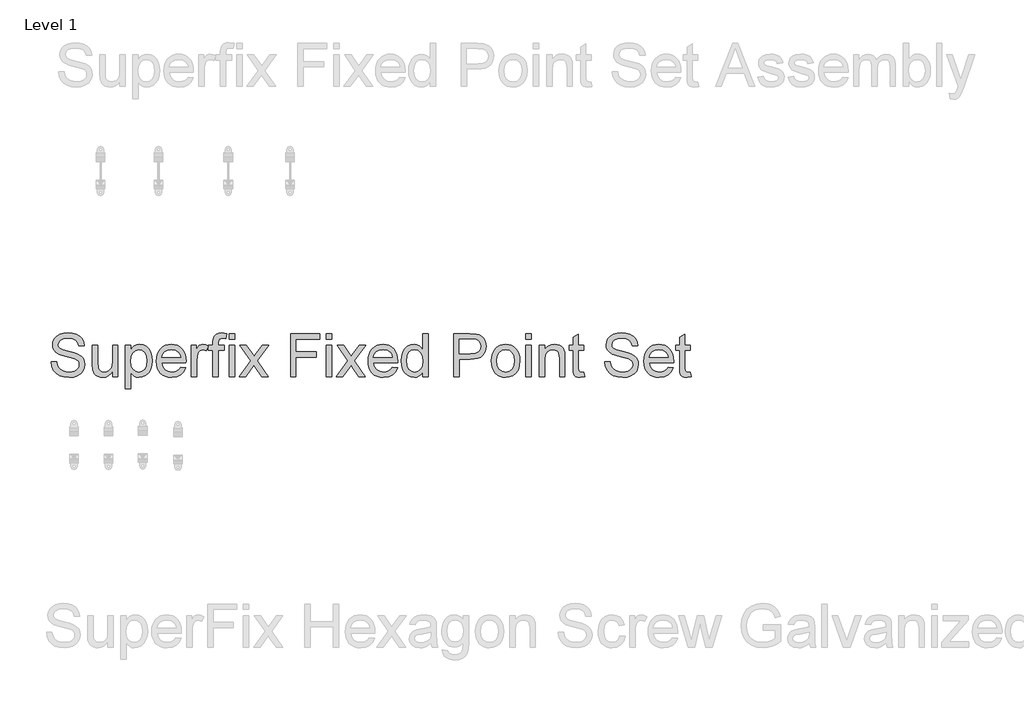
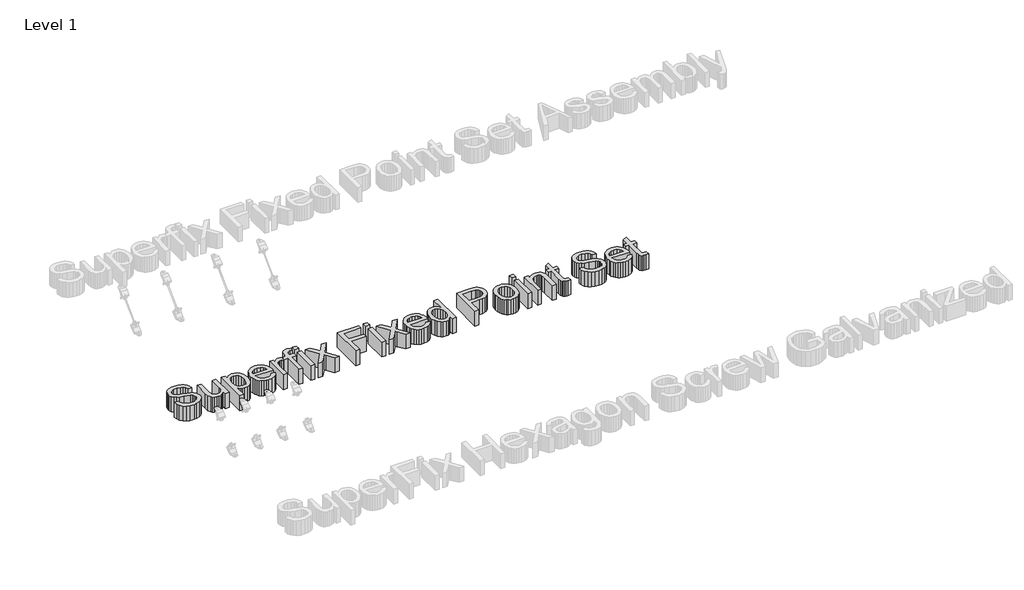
# One storey, part 21 of 32: 1 proxy.
"""IFC4 building model written with IfcOpenShell, lengths in millimetres."""

from ifc_helpers import new_model, si_unit, origin, origin_with_axes, place, context, project, spatial, polyline, outline, extrude, element, save

model = new_model("IFC4")

# Units and contexts
model_context = context("Model", 3, world=origin())
ifc_project = project(units=[si_unit("LENGTHUNIT", "METRE", prefix="MILLI")], contexts=[model_context])

# Site, building, storey
site = spatial("IfcSite", under=ifc_project)
building = spatial("IfcBuilding", under=site)
storey = spatial("IfcBuildingStorey", under=building, Name="Level 1", Elevation=0.0)

# Proxy
placement = place(None, origin())
element("IfcBuildingElementProxy", 1, Name="300mm Arial 2", ObjectType="300mm Arial 2", at=placement, inside=storey, context=model_context, shape_type="SweptSolid", body=[
    extrude(outline(polyline([(-40544.5484038, 16582.5420508), (-40506.8772875, 16582.5420508), (-40502.5546741, 16561.6371564), (-40494.7371817, 16544.8341463), (-40482.5418935, 16531.4984239), (-40465.0858928, 16520.995393), (-40443.7487371, 16514.180379), (-40419.9099838, 16511.9087077), (-40398.922316, 16513.628556), (-40380.5466104, 16518.788101), (-40365.6565866, 16526.9550813), (-40355.1259645, 16537.6972356), (-40348.8627735, 16550.0304795), (-40346.7750432, 16562.9707286), (-40348.3385417, 16575.579884), (-40353.0290371, 16586.4783881), (-40362.5571808, 16595.7766056), (-40378.633624, 16603.5849009), (-40433.4848295, 16617.9690869), (-40469.4912797, 16627.4880335), (-40492.5298897, 16636.5471277), (-40511.2826744, 16649.2206624), (-40524.5724115, 16664.5797357), (-40532.4910714, 16682.2932538), (-40535.1306247, 16702.0301228), (-40531.865672, 16724.0938455), (-40522.0708139, 16744.6676461), (-40506.0035678, 16762.1052526), (-40483.921451, 16774.7603933), (-40457.4155532, 16782.458324), (-40428.0769641, 16785.0243009), (-40396.2919597, 16782.3387624), (-40368.4800809, 16774.2821467), (-40345.634609, 16761.0200007), (-40328.7488254, 16742.7178715), (-40318.0618535, 16720.5161931), (-40313.8128164, 16695.5553997), (-40351.4839327, 16695.5553997), (-40358.4001142, 16718.0329896), (-40372.8210885, 16734.2565856), (-40395.3538607, 16744.0790349), (-40426.6054361, 16747.3531846), (-40458.5927756, 16744.1158231), (-40480.5369366, 16734.4037384), (-40493.2288655, 16720.1115229), (-40497.4595084, 16703.1337688), (-40494.4612702, 16688.6576123), (-40485.4665554, 16677.0141471), (-40464.2029761, 16666.6030867), (-40423.9566858, 16655.971297), (-40382.4228085, 16645.8729362), (-40357.2964683, 16637.0621625), (-40335.8213568, 16623.3953463), (-40320.8393625, 16606.5279569), (-40312.0377858, 16586.643935), (-40309.1039269, 16563.9272218), (-40312.4792442, 16540.7046709), (-40322.6051961, 16518.8616774), (-40339.0679154, 16500.0629075), (-40361.4535348, 16485.973027), (-40388.3732998, 16477.1714503), (-40418.4384559, 16474.2375914), (-40455.346217, 16477.4013766), (-40485.7240728, 16486.892732), (-40509.921511, 16502.748446), (-40528.2880196, 16525.0053067), (-40540.0786376, 16552.1182098), (-40544.5484038, 16582.5420508)])), origin_with_axes(), (0.0, 0.0, 1.0), 150.0),
    extrude(outline(polyline([(-40116.0394558, 16478.9464809), (-40116.0394558, 16516.9854792), (-40129.6694837, 16498.2832783), (-40145.5435918, 16484.9245634), (-40163.6617801, 16476.9093344), (-40184.0240485, 16474.2375914), (-40202.372163, 16476.1137896), (-40219.4510847, 16481.7423841), (-40233.7800884, 16490.20367), (-40243.8784491, 16500.5779423), (-40255.09885, 16528.3162447), (-40257.306142, 16563.3386106), (-40257.306142, 16700.2642892), (-40219.6350257, 16700.2642892), (-40219.6350257, 16581.0705228), (-40217.3541573, 16542.6636425), (-40211.8635185, 16529.852152), (-40202.4549365, 16520.1124762), (-40189.7538106, 16513.9596498), (-40174.3855403, 16511.9087077), (-40158.1343531, 16514.0056351), (-40142.9316297, 16520.2964172), (-40130.3960507, 16530.2016399), (-40122.1462969, 16543.1418891), (-40117.5661661, 16560.8646042), (-40116.0394558, 16585.1172247), (-40116.0394558, 16700.2642892), (-40078.3683395, 16700.2642892), (-40078.3683395, 16478.9464809), (-40116.0394558, 16478.9464809)])), origin_with_axes(), (0.0, 0.0, 1.0), 150.0),
    extrude(outline(polyline([(-40026.5705546, 16394.1864692), (-40026.5705546, 16700.2642892), (-39988.8994383, 16700.2642892), (-39988.8994383, 16663.3289369), (-39976.6121796, 16681.5482927), (-39962.853393, 16694.5621183), (-39946.813738, 16702.3704137), (-39927.6838743, 16704.9731788), (-39902.2080461, 16701.331147), (-39879.9327913, 16690.4050518), (-39861.796209, 16672.8570806), (-39848.7363981, 16649.3494211), (-39840.8453293, 16621.5927246), (-39838.2149731, 16591.2976423), (-39841.1856202, 16559.0803765), (-39850.0975615, 16530.2660193), (-39864.6656885, 16506.3169014), (-39884.6048927, 16488.6953538), (-39907.8274436, 16477.852032), (-39932.245611, 16474.2375914), (-39949.563656, 16476.6564155), (-39965.0238968, 16483.9128879), (-39978.2584516, 16494.8665743), (-39988.8994383, 16508.3770406), (-39988.8994383, 16394.1864692), (-40026.5705546, 16394.1864692)]), holes=[polyline([(-39988.8994383, 16587.8395515), (-39984.8251452, 16554.0679844), (-39972.6022659, 16530.4499603), (-39954.5668511, 16516.5440208), (-39933.0549514, 16511.9087077), (-39911.1935639, 16516.7095677), (-39892.6982965, 16531.1121479), (-39880.0891412, 16555.5946946), (-39875.8860894, 16590.6354547), (-39879.9879736, 16624.2230808), (-39892.2936264, 16648.1721987), (-39910.30145, 16662.5195965), (-39931.509847, 16667.3020625), (-39952.8010175, 16662.2160939), (-39971.4986199, 16646.9581881), (-39984.5492337, 16622.0065918), (-39988.8994383, 16587.8395515)])]), origin_with_axes(), (0.0, 0.0, 1.0), 150.0),
    extrude(outline(polyline([(-39640.8830709, 16544.8709345), (-39603.9477185, 16540.1620449), (-39617.2558497, 16512.331772), (-39638.4918379, 16491.5280452), (-39667.1774365, 16478.5602048), (-39702.8343988, 16474.2375914), (-39726.2087011, 16476.1022933), (-39747.0354206, 16481.6963989), (-39765.3145572, 16491.0199082), (-39781.046111, 16504.0728212), (-39793.6966531, 16520.4918545), (-39802.7327546, 16539.9137246), (-39808.1544155, 16562.3384315), (-39809.9616358, 16587.7659751), (-39808.1360214, 16614.0557422), (-39802.6591782, 16637.2277094), (-39793.5311062, 16657.2818766), (-39780.7518054, 16674.218244), (-39765.0616383, 16687.673528), (-39747.2009675, 16697.2844451), (-39727.1697928, 16703.0509953), (-39704.9681144, 16704.9731788), (-39683.4815066, 16703.0555939), (-39664.0504395, 16697.3028392), (-39646.674913, 16687.7149147), (-39631.3549272, 16674.2918204), (-39618.8492386, 16657.3922412), (-39609.9166039, 16637.3748622), (-39604.5570231, 16614.2396832), (-39602.7704962, 16587.9867043), (-39602.9912253, 16577.8331612), (-39772.2905195, 16577.8331612), (-39765.7698112, 16549.6350063), (-39750.62227, 16528.9048559), (-39728.7608824, 16516.1577447), (-39702.0986348, 16511.9087077), (-39682.0490661, 16513.8768764), (-39665.1632825, 16519.7813824), (-39651.4412841, 16529.9901078), (-39640.8830709, 16544.8709345)]), holes=[polyline([(-39772.2905195, 16615.5042775), (-39640.4416125, 16615.5042775), (-39645.5367781, 16635.4066935), (-39655.5247743, 16649.6437267), (-39677.4873294, 16662.8874785), (-39705.1152672, 16667.3020625), (-39730.5083219, 16663.7795924), (-39751.5051868, 16653.2121821), (-39766.100905, 16636.7402657), (-39772.2905195, 16615.5042775)])]), origin_with_axes(), (0.0, 0.0, 1.0), 150.0),
    extrude(outline(polyline([(-39565.0993798, 16478.9464809), (-39565.0993798, 16700.2642892), (-39532.1371531, 16700.2642892), (-39532.1371531, 16667.5227917), (-39519.960259, 16686.5055026), (-39508.7398582, 16697.6891153), (-39497.4826691, 16703.1521629), (-39485.1954105, 16704.9731788), (-39466.4334287, 16702.066911), (-39447.3771414, 16693.3481077), (-39459.9587056, 16659.5765406), (-39473.2024574, 16665.370682), (-39486.4462093, 16667.3020625), (-39497.6942013, 16665.4442584), (-39507.7465768, 16659.8708462), (-39515.8675718, 16651.0048901), (-39521.3214224, 16639.2694544), (-39525.9015533, 16618.2266043), (-39527.4282635, 16595.2707678), (-39527.4282635, 16478.9464809), (-39565.0993798, 16478.9464809)])), origin_with_axes(), (0.0, 0.0, 1.0), 150.0),
    extrude(outline(polyline([(-39414.4149146, 16478.9464809), (-39414.4149146, 16662.5931729), (-39447.3771414, 16662.5931729), (-39447.3771414, 16700.2642892), (-39414.4149146, 16700.2642892), (-39414.4149146, 16722.5579381), (-39410.4417891, 16753.9750605), (-39402.86342, 16766.5014425), (-39391.1647725, 16776.4158622), (-39374.7940237, 16782.8721913), (-39353.1993506, 16785.0243009), (-39318.8391723, 16780.9040226), (-39324.3574022, 16745.587351), (-39346.0624399, 16747.3531846), (-39360.3822466, 16745.7896861), (-39369.7908286, 16741.0991907), (-39375.0055559, 16732.1412641), (-39376.7437983, 16717.7754722), (-39376.7437983, 16700.2642892), (-39334.3637925, 16700.2642892), (-39334.3637925, 16662.5931729), (-39376.7437983, 16662.5931729), (-39376.7437983, 16478.9464809), (-39414.4149146, 16478.9464809)])), origin_with_axes(), (0.0, 0.0, 1.0), 150.0),
    extrude(outline(polyline([(-39301.4015657, 16478.9464809), (-39301.4015657, 16700.2642892), (-39263.7304494, 16700.2642892), (-39263.7304494, 16478.9464809), (-39301.4015657, 16478.9464809)])), origin_with_axes(), (0.0, 0.0, 1.0), 150.0),
    extrude(outline(polyline([(-39301.4015657, 16742.6442951), (-39301.4015657, 16780.3154114), (-39263.7304494, 16780.3154114), (-39263.7304494, 16742.6442951), (-39301.4015657, 16742.6442951)])), origin_with_axes(), (0.0, 0.0, 1.0), 150.0),
    extrude(outline(polyline([(-39230.7682226, 16478.9464809), (-39150.2756421, 16590.1939963), (-39226.0593331, 16700.2642892), (-39180.7362713, 16700.2642892), (-39144.168801, 16647.2892819), (-39127.0990764, 16622.2733063), (-39112.3102202, 16642.7275452), (-39070.6659783, 16700.2642892), (-39025.3429165, 16700.2642892), (-39104.9525803, 16590.1939963), (-39028.2859725, 16478.9464809), (-39073.6090343, 16478.9464809), (-39119.7414365, 16545.8274277), (-39128.2027224, 16558.0411099), (-39185.4451608, 16478.9464809), (-39230.7682226, 16478.9464809)])), origin_with_axes(), (0.0, 0.0, 1.0), 150.0),
    extrude(outline(polyline([(-38872.8926177, 16478.9464809), (-38872.8926177, 16780.3154114), (-38670.4103676, 16780.3154114), (-38670.4103676, 16742.6442951), (-38835.2215014, 16742.6442951), (-38835.2215014, 16653.1753939), (-38693.9548153, 16653.1753939), (-38693.9548153, 16615.5042775), (-38835.2215014, 16615.5042775), (-38835.2215014, 16478.9464809), (-38872.8926177, 16478.9464809)])), origin_with_axes(), (0.0, 0.0, 1.0), 150.0),
    extrude(outline(polyline([(-38623.3214722, 16742.6442951), (-38623.3214722, 16780.3154114), (-38585.6503559, 16780.3154114), (-38585.6503559, 16742.6442951), (-38623.3214722, 16742.6442951)])), origin_with_axes(), (0.0, 0.0, 1.0), 150.0),
    extrude(outline(polyline([(-38623.3214722, 16478.9464809), (-38623.3214722, 16700.2642892), (-38585.6503559, 16700.2642892), (-38585.6503559, 16478.9464809), (-38623.3214722, 16478.9464809)])), origin_with_axes(), (0.0, 0.0, 1.0), 150.0),
    extrude(outline(polyline([(-38552.6881291, 16478.9464809), (-38472.1955486, 16590.1939963), (-38547.9792396, 16700.2642892), (-38502.6561778, 16700.2642892), (-38466.0887075, 16647.2892819), (-38449.0189829, 16622.2733063), (-38434.2301267, 16642.7275452), (-38392.5858848, 16700.2642892), (-38347.262823, 16700.2642892), (-38426.8724868, 16590.1939963), (-38350.205879, 16478.9464809), (-38395.5289408, 16478.9464809), (-38441.661343, 16545.8274277), (-38450.1226289, 16558.0411099), (-38507.3650673, 16478.9464809), (-38552.6881291, 16478.9464809)])), origin_with_axes(), (0.0, 0.0, 1.0), 150.0),
    extrude(outline(polyline([(-38162.2917558, 16544.8709345), (-38125.3564035, 16540.1620449), (-38138.6645347, 16512.331772), (-38159.9005229, 16491.5280452), (-38188.5861214, 16478.5602048), (-38224.2430838, 16474.2375914), (-38247.6173861, 16476.1022933), (-38268.4441055, 16481.6963989), (-38286.7232422, 16491.0199082), (-38302.454796, 16504.0728212), (-38315.1053381, 16520.4918545), (-38324.1414396, 16539.9137246), (-38329.5631005, 16562.3384315), (-38331.3703208, 16587.7659751), (-38329.5447064, 16614.0557422), (-38324.0678632, 16637.2277094), (-38314.9397912, 16657.2818766), (-38302.1604904, 16674.218244), (-38286.4703233, 16687.673528), (-38268.6096524, 16697.2844451), (-38248.5784778, 16703.0509953), (-38226.3767994, 16704.9731788), (-38204.8901916, 16703.0555939), (-38185.4591245, 16697.3028392), (-38168.083598, 16687.7149147), (-38152.7636122, 16674.2918204), (-38140.2579236, 16657.3922412), (-38131.3252889, 16637.3748622), (-38125.9657081, 16614.2396832), (-38124.1791811, 16587.9867043), (-38124.3999103, 16577.8331612), (-38293.6992045, 16577.8331612), (-38287.1784961, 16549.6350063), (-38272.030955, 16528.9048559), (-38250.1695674, 16516.1577447), (-38223.5073198, 16511.9087077), (-38203.4577511, 16513.8768764), (-38186.5719675, 16519.7813824), (-38172.8499691, 16529.9901078), (-38162.2917558, 16544.8709345)]), holes=[polyline([(-38293.6992045, 16615.5042775), (-38161.8502974, 16615.5042775), (-38166.9454631, 16635.4066935), (-38176.9334592, 16649.6437267), (-38198.8960144, 16662.8874785), (-38226.5239522, 16667.3020625), (-38251.9170069, 16663.7795924), (-38272.9138718, 16653.2121821), (-38287.5095899, 16636.7402657), (-38293.6992045, 16615.5042775)])]), origin_with_axes(), (0.0, 0.0, 1.0), 150.0),
    extrude(outline(polyline([(-37949.9502682, 16478.9464809), (-37949.9502682, 16514.4838817), (-37961.2212528, 16496.8761297), (-37974.8742734, 16484.299164), (-37990.9093299, 16476.7529845), (-38009.3264222, 16474.2375914), (-38033.6802103, 16477.8796232), (-38055.9738592, 16488.8057184), (-38074.8462056, 16506.252522), (-38088.936086, 16529.4566789), (-38097.7100716, 16557.4800899), (-38100.6347334, 16589.3846559), (-38097.9399978, 16620.8937488), (-38089.855791, 16649.3494211), (-38076.39131, 16673.1329921), (-38057.5557518, 16690.625781), (-38034.7746593, 16701.3863293), (-38009.473575, 16704.9731788), (-37991.0426871, 16702.4072019), (-37974.7455147, 16694.7092711), (-37960.9315458, 16682.9094561), (-37949.9502682, 16668.0378265), (-37949.9502682, 16780.3154114), (-37912.2791519, 16780.3154114), (-37912.2791519, 16478.9464809), (-37949.9502682, 16478.9464809)]), holes=[polyline([(-38062.9636171, 16589.5318087), (-38058.7145801, 16555.4567389), (-38045.967469, 16531.2225125), (-38027.4446105, 16516.7371589), (-38005.8683315, 16511.9087077), (-37984.3012495, 16516.5164297), (-37966.2474406, 16530.3395957), (-37954.0245613, 16553.635723), (-37949.9502682, 16586.6623291), (-37954.0981377, 16622.769947), (-37966.5417462, 16647.8043167), (-37985.0554076, 16662.427626), (-38007.4134359, 16667.3020625), (-38029.2104441, 16662.6207641), (-38047.0711149, 16648.5768689), (-38058.9904916, 16624.4530071), (-38062.9636171, 16589.5318087)])]), origin_with_axes(), (0.0, 0.0, 1.0), 150.0),
    extrude(outline(polyline([(-37733.3413495, 16478.9464809), (-37733.3413495, 16780.3154114), (-37621.6523757, 16780.3154114), (-37576.6236195, 16777.4459318), (-37556.5464596, 16772.0840517), (-37540.019361, 16763.3560514), (-37526.7112298, 16750.8664577), (-37516.2909723, 16734.2197974), (-37509.5587318, 16714.5840959), (-37507.3146516, 16693.1273785), (-37508.8298656, 16674.6275127), (-37513.3755075, 16657.6083719), (-37520.9515773, 16642.0699561), (-37531.5580751, 16628.0122654), (-37546.1193043, 16616.3596032), (-37565.5595685, 16608.036273), (-37589.8788677, 16603.042275), (-37619.0772018, 16601.3776089), (-37695.6702332, 16601.3776089), (-37695.6702332, 16478.9464809), (-37733.3413495, 16478.9464809)]), holes=[polyline([(-37695.6702332, 16639.0487252), (-37616.8699098, 16639.0487252), (-37583.4662246, 16642.506816), (-37561.3933049, 16652.8810883), (-37549.0876522, 16669.5277485), (-37544.9857679, 16691.8030033), (-37547.404592, 16708.7255751), (-37554.6610644, 16722.9993965), (-37565.8538741, 16733.7415508), (-37580.0817103, 16740.0691211), (-37617.7528266, 16742.6442951), (-37695.6702332, 16742.6442951), (-37695.6702332, 16639.0487252)])]), origin_with_axes(), (0.0, 0.0, 1.0), 150.0),
    extrude(outline(polyline([(-37469.6435353, 16589.6053851), (-37467.6063888, 16618.267991), (-37461.4949491, 16642.9666685), (-37451.3092164, 16663.7014174), (-37437.0491905, 16680.4722379), (-37422.6925957, 16691.1913995), (-37406.8460787, 16698.8479436), (-37389.5096397, 16703.44187), (-37370.6832786, 16704.9731788), (-37349.9002451, 16703.1084769), (-37331.108373, 16697.5143713), (-37314.3076621, 16688.190862), (-37299.4981125, 16675.137949), (-37287.4108897, 16658.7970906), (-37278.7771592, 16639.6097453), (-37273.5969208, 16617.575913), (-37271.8701747, 16592.6955938), (-37274.9235953, 16554.6382014), (-37284.0838569, 16525.6674943), (-37299.0842453, 16503.9716537), (-37319.6580459, 16487.7388606), (-37344.0946074, 16477.6129087), (-37370.6832786, 16474.2375914), (-37391.7698147, 16476.0953955), (-37410.7364308, 16481.6688077), (-37427.583127, 16490.9578281), (-37442.3099031, 16503.9624566), (-37454.2683672, 16520.4619641), (-37462.8101273, 16540.2356213), (-37467.9351833, 16563.2834283), (-37469.6435353, 16589.6053851)]), holes=[polyline([(-37431.972419, 16589.6789615), (-37427.6130174, 16555.5854976), (-37414.5348124, 16531.2960889), (-37394.8531257, 16516.755553), (-37370.6832786, 16511.9087077), (-37346.6237961, 16516.7831441), (-37326.9788976, 16531.4064534), (-37313.9006927, 16556.0177589), (-37309.541291, 16590.8561839), (-37313.9282838, 16623.9563664), (-37327.0892622, 16647.9146813), (-37346.7617519, 16662.4552172), (-37370.6832786, 16667.3020625), (-37394.8531257, 16662.4736113), (-37414.5348124, 16647.9882577), (-37427.6130174, 16623.7540313), (-37431.972419, 16589.6789615)])]), origin_with_axes(), (0.0, 0.0, 1.0), 150.0),
    extrude(outline(polyline([(-37229.4901689, 16742.6442951), (-37229.4901689, 16780.3154114), (-37191.8190526, 16780.3154114), (-37191.8190526, 16742.6442951), (-37229.4901689, 16742.6442951)])), origin_with_axes(), (0.0, 0.0, 1.0), 150.0),
    extrude(outline(polyline([(-37229.4901689, 16478.9464809), (-37229.4901689, 16700.2642892), (-37191.8190526, 16700.2642892), (-37191.8190526, 16478.9464809), (-37229.4901689, 16478.9464809)])), origin_with_axes(), (0.0, 0.0, 1.0), 150.0),
    extrude(outline(polyline([(-37135.3123781, 16478.9464809), (-37135.3123781, 16700.2642892), (-37097.6412618, 16700.2642892), (-37097.6412618, 16669.3622016), (-37084.5538598, 16684.9420041), (-37068.8361016, 16696.0704345), (-37050.4879871, 16702.7474927), (-37029.5095163, 16704.9731788), (-37010.9406726, 16703.179754), (-36993.9353274, 16697.7994799), (-36979.7534764, 16689.5037409), (-36969.6551157, 16678.9639217), (-36958.3611384, 16651.2624075), (-36956.3745756, 16614.84209), (-36956.3745756, 16478.9464809), (-36994.045692, 16478.9464809), (-36994.045692, 16609.7653184), (-36998.3866995, 16643.0954272), (-37004.3923731, 16653.019044), (-37013.7273787, 16660.7169748), (-37025.6927406, 16665.6557905), (-37039.589483, 16667.3020625), (-37061.6532056, 16663.6048484), (-37080.4611726, 16652.5132063), (-37087.9774616, 16643.4587107), (-37093.3462395, 16631.08408), (-37097.6412618, 16596.3744138), (-37097.6412618, 16478.9464809), (-37135.3123781, 16478.9464809)])), origin_with_axes(), (0.0, 0.0, 1.0), 150.0),
    extrude(outline(polyline([(-36824.5256686, 16510.3636033), (-36819.816779, 16477.842835), (-36847.9965399, 16474.2375914), (-36866.0779399, 16475.8010899), (-36879.5608151, 16480.4915853), (-36889.0889587, 16487.7204665), (-36895.3061644, 16496.8991223), (-36898.727467, 16512.6628658), (-36899.8679012, 16539.6470101), (-36899.8679012, 16662.5931729), (-36928.1212384, 16662.5931729), (-36928.1212384, 16700.2642892), (-36899.8679012, 16700.2642892), (-36899.8679012, 16754.0486369), (-36862.1967849, 16776.195133), (-36862.1967849, 16700.2642892), (-36824.5256686, 16700.2642892), (-36824.5256686, 16662.5931729), (-36862.1967849, 16662.5931729), (-36862.1967849, 16540.7506561), (-36860.2102221, 16521.3264868), (-36853.7722872, 16514.4470935), (-36840.9332056, 16511.9087077), (-36824.5256686, 16510.3636033)])), origin_with_axes(), (0.0, 0.0, 1.0), 150.0),
    extrude(outline(polyline([(-36678.5500929, 16582.5420508), (-36640.8789766, 16582.5420508), (-36636.5563631, 16561.6371564), (-36628.7388707, 16544.8341463), (-36616.5435826, 16531.4984239), (-36599.0875819, 16520.995393), (-36577.7504262, 16514.180379), (-36553.9116729, 16511.9087077), (-36532.9240051, 16513.628556), (-36514.5482994, 16518.788101), (-36499.6582757, 16526.9550813), (-36489.1276536, 16537.6972356), (-36482.8644626, 16550.0304795), (-36480.7767323, 16562.9707286), (-36482.3402308, 16575.579884), (-36487.0307262, 16586.4783881), (-36496.5588699, 16595.7766056), (-36512.6353131, 16603.5849009), (-36567.4865185, 16617.9690869), (-36603.4929688, 16627.4880335), (-36626.5315788, 16636.5471277), (-36645.2843635, 16649.2206624), (-36658.5741006, 16664.5797357), (-36666.4927605, 16682.2932538), (-36669.1323138, 16702.0301228), (-36665.8673611, 16724.0938455), (-36656.072503, 16744.6676461), (-36640.0052568, 16762.1052526), (-36617.9231401, 16774.7603933), (-36591.4172423, 16782.458324), (-36562.0786532, 16785.0243009), (-36530.2936488, 16782.3387624), (-36502.48177, 16774.2821467), (-36479.6362981, 16761.0200007), (-36462.7505145, 16742.7178715), (-36452.0635426, 16720.5161931), (-36447.8145055, 16695.5553997), (-36485.4856218, 16695.5553997), (-36492.4018033, 16718.0329896), (-36506.8227775, 16734.2565856), (-36529.3555497, 16744.0790349), (-36560.6071252, 16747.3531846), (-36592.5944647, 16744.1158231), (-36614.5386257, 16734.4037384), (-36627.2305546, 16720.1115229), (-36631.4611975, 16703.1337688), (-36628.4629592, 16688.6576123), (-36619.4682445, 16677.0141471), (-36598.2046651, 16666.6030867), (-36557.9583749, 16655.971297), (-36516.4244976, 16645.8729362), (-36491.2981573, 16637.0621625), (-36469.8230459, 16623.3953463), (-36454.8410516, 16606.5279569), (-36446.0394749, 16586.643935), (-36443.105616, 16563.9272218), (-36446.4809333, 16540.7046709), (-36456.6068852, 16518.8616774), (-36473.0696045, 16500.0629075), (-36495.4552239, 16485.973027), (-36522.3749889, 16477.1714503), (-36552.4401449, 16474.2375914), (-36589.3479061, 16477.4013766), (-36619.7257619, 16486.892732), (-36643.9232001, 16502.748446), (-36662.2897087, 16525.0053067), (-36674.0803266, 16552.1182098), (-36678.5500929, 16582.5420508)])), origin_with_axes(), (0.0, 0.0, 1.0), 150.0),
    extrude(outline(polyline([(-36236.3559347, 16544.8709345), (-36199.4205824, 16540.1620449), (-36212.7287135, 16512.331772), (-36233.9647017, 16491.5280452), (-36262.6503003, 16478.5602048), (-36298.3072627, 16474.2375914), (-36321.6815649, 16476.1022933), (-36342.5082844, 16481.6963989), (-36360.787421, 16491.0199082), (-36376.5189748, 16504.0728212), (-36389.169517, 16520.4918545), (-36398.2056185, 16539.9137246), (-36403.6272794, 16562.3384315), (-36405.4344997, 16587.7659751), (-36403.6088853, 16614.0557422), (-36398.1320421, 16637.2277094), (-36389.0039701, 16657.2818766), (-36376.2246693, 16674.218244), (-36360.5345022, 16687.673528), (-36342.6738313, 16697.2844451), (-36322.6426567, 16703.0509953), (-36300.4409782, 16704.9731788), (-36278.9543705, 16703.0555939), (-36259.5233033, 16697.3028392), (-36242.1477768, 16687.7149147), (-36226.827791, 16674.2918204), (-36214.3221024, 16657.3922412), (-36205.3894677, 16637.3748622), (-36200.0298869, 16614.2396832), (-36198.24336, 16587.9867043), (-36198.4640892, 16577.8331612), (-36367.7633834, 16577.8331612), (-36361.242675, 16549.6350063), (-36346.0951338, 16528.9048559), (-36324.2337463, 16516.1577447), (-36297.5714987, 16511.9087077), (-36277.5219299, 16513.8768764), (-36260.6361464, 16519.7813824), (-36246.9141479, 16529.9901078), (-36236.3559347, 16544.8709345)]), holes=[polyline([(-36367.7633834, 16615.5042775), (-36235.9144763, 16615.5042775), (-36241.0096419, 16635.4066935), (-36250.9976381, 16649.6437267), (-36272.9601932, 16662.8874785), (-36300.588131, 16667.3020625), (-36325.9811858, 16663.7795924), (-36346.9780506, 16653.2121821), (-36361.5737688, 16636.7402657), (-36367.7633834, 16615.5042775)])]), origin_with_axes(), (0.0, 0.0, 1.0), 150.0),
    extrude(outline(polyline([(-36080.5211215, 16510.3636033), (-36075.812232, 16477.842835), (-36103.9919928, 16474.2375914), (-36122.0733929, 16475.8010899), (-36135.556268, 16480.4915853), (-36145.0844117, 16487.7204665), (-36151.3016174, 16496.8991223), (-36154.72292, 16512.6628658), (-36155.8633541, 16539.6470101), (-36155.8633541, 16662.5931729), (-36184.1166914, 16662.5931729), (-36184.1166914, 16700.2642892), (-36155.8633541, 16700.2642892), (-36155.8633541, 16754.0486369), (-36118.1922378, 16776.195133), (-36118.1922378, 16700.2642892), (-36080.5211215, 16700.2642892), (-36080.5211215, 16662.5931729), (-36118.1922378, 16662.5931729), (-36118.1922378, 16540.7506561), (-36116.2056751, 16521.3264868), (-36109.7677401, 16514.4470935), (-36096.9286585, 16511.9087077), (-36080.5211215, 16510.3636033)])), origin_with_axes(), (0.0, 0.0, 1.0), 150.0),
])

save(model, "model.ifc")
